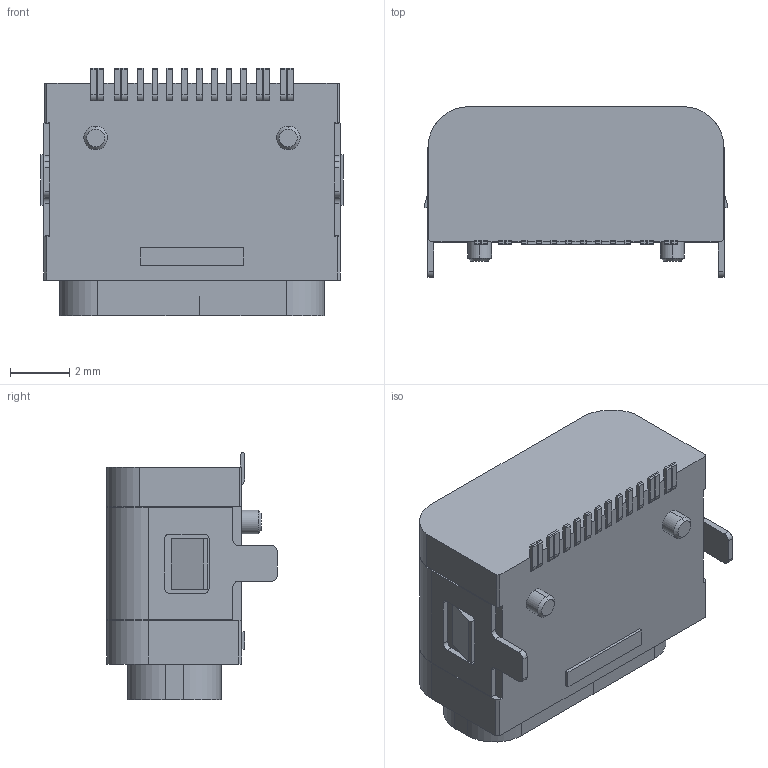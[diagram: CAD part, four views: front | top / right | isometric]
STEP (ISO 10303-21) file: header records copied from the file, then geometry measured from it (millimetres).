
FILE_DESCRIPTION((''),'2;1');
FILE_NAME('PRT0001','2023-04-11T',('WYH'),(''),'PRO/ENGINEER BY PARAMETRIC TECHNOLOGY CORPORATION, 2013040','PRO/ENGINEER BY PARAMETRIC TECHNOLOGY CORPORATION, 2013040','');
FILE_SCHEMA(('CONFIG_CONTROL_DESIGN'));
Length unit declared in the file: millimetre
Products named in the file (1): PRT0001
Bounding box: 10.2 x 5.76 x 8.35 mm (x, y, z)
Volume: 254.3 mm3; surface area: 564.8 mm2
Topology: 1 solids, 1 shells, 785 faces, 2236 edges, 1460 vertices
Faces by surface type: plane 641, cylinder 132, cone 12
Entity records: 25270 total; most frequent: CARTESIAN_POINT 4595, ORIENTED_EDGE 4472, DIRECTION 4044, EDGE_CURVE 2236, VECTOR 1946, LINE 1946, VERTEX_POINT 1460, AXIS2_PLACEMENT_3D 1049
